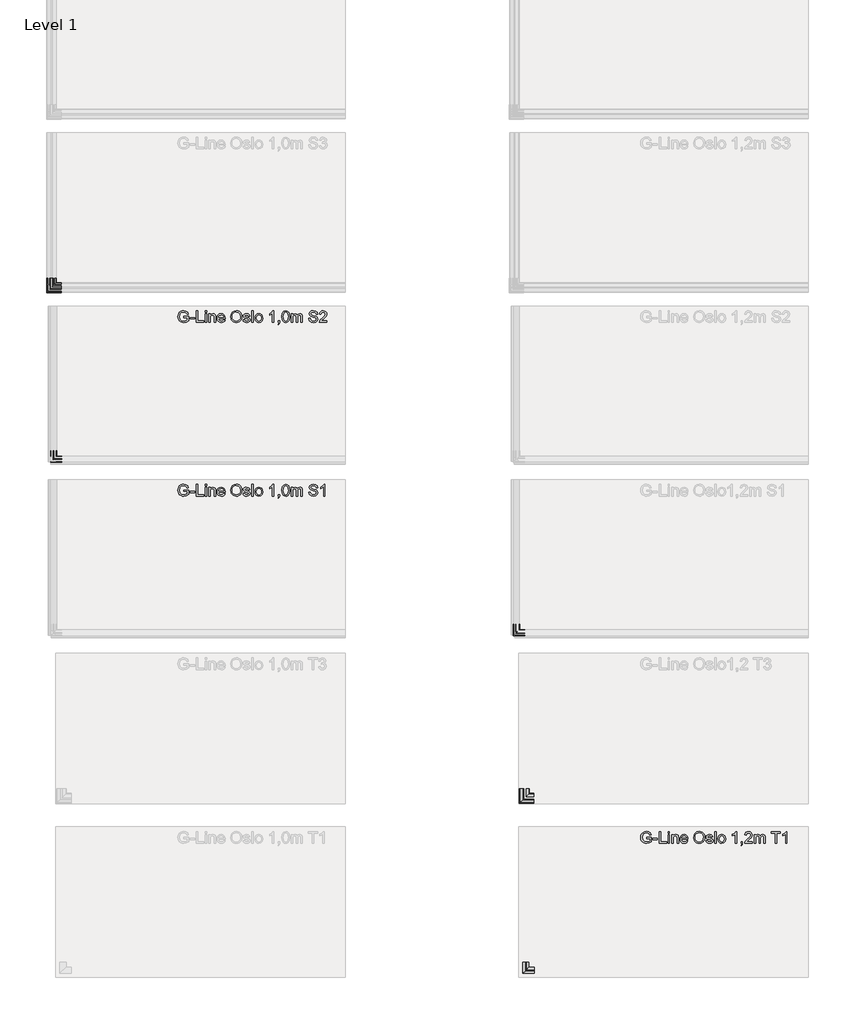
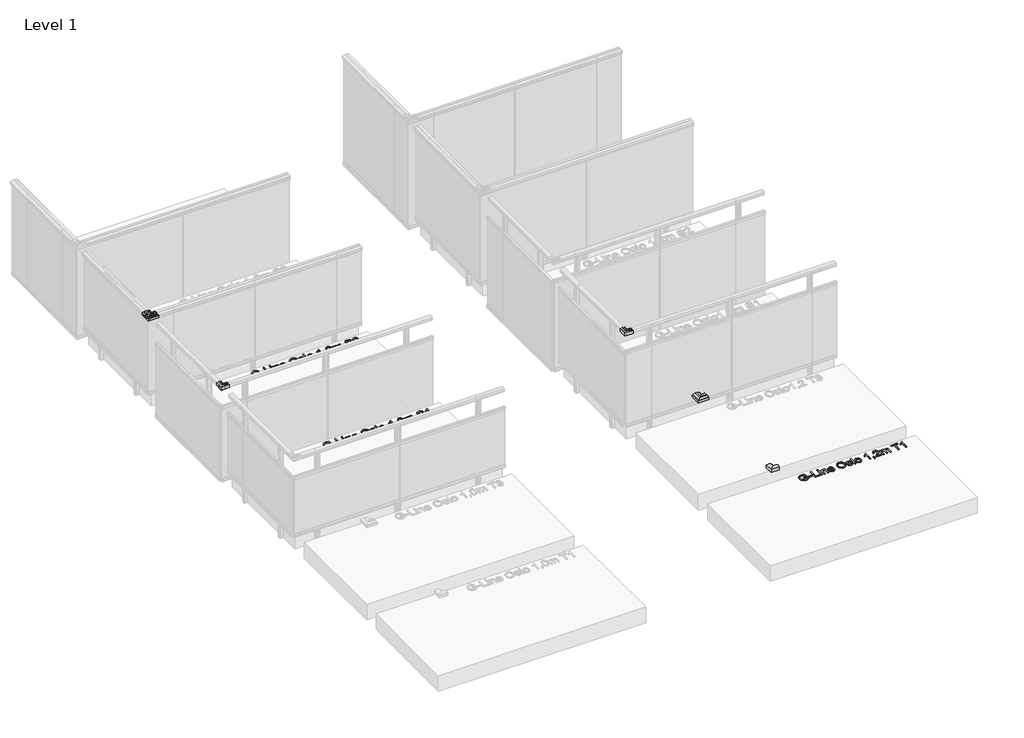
# One storey, part 61 of 66: 8 proxies.
"""IFC4 building model written with IfcOpenShell, lengths in millimetres."""

from ifc_helpers import new_model, si_unit, origin, origin_with_axes, place, context, project, spatial, polyline, outline, extrude, transform, mapped, element, save
from components import generic_models_029e0633, generic_models_224f447f

model = new_model("IFC4")

# Units and contexts
model_context = context("Model", 3, world=origin())
ifc_project = project(units=[si_unit("LENGTHUNIT", "METRE", prefix="MILLI")], contexts=[model_context])

# Site, building, storey
site = spatial("IfcSite", under=ifc_project)
building = spatial("IfcBuilding", under=site)
storey = spatial("IfcBuildingStorey", under=building, Name="Level 1", Elevation=0.0)

# Proxies
placement = place(None, origin())
generic_models_shape = generic_models_029e0633(model_context)
element("IfcBuildingElementProxy", 1, Name="Innore top rail 51x43 corner element : Innore top rail 51x43 element", ObjectType="Innore top rail 51x43 corner element : Innore top rail 51x43 element", at=placement, inside=storey, context=model_context, shape_type="MappedRepresentation", body=[
    mapped(generic_models_shape, transform((4483.61192, 14108.9644424, 1000.0), x_axis=(0.0, -1.0, 0.0), y_axis=(1.0, 0.0, 0.0), z_axis=(0.0, 0.0, 1.0))),
])
element("IfcBuildingElementProxy", 2, Name="Innore top rail 51x43 corner element : Innore top rail 51x43 element", ObjectType="Innore top rail 51x43 corner element : Innore top rail 51x43 element", at=placement, inside=storey, context=model_context, shape_type="MappedRepresentation", body=[
    mapped(generic_models_shape, transform((8564.0547322, 9691.305231, 1200.0), x_axis=(0.0, -1.0, 0.0), y_axis=(1.0, 0.0, 0.0), z_axis=(0.0, 0.0, 1.0))),
])
element("IfcBuildingElementProxy", 3, Name="Innore top rail 51x43 corner element : Innore top rail 51x43 element", ObjectType="Innore top rail 51x43 corner element : Innore top rail 51x43 element", at=placement, inside=storey, context=model_context, shape_type="MappedRepresentation", body=[
    mapped(generic_models_shape, transform((8483.61192, 12608.9644424, 1200.0), x_axis=(0.0, -1.0, 0.0), y_axis=(1.0, 0.0, 0.0), z_axis=(0.0, 0.0, 1.0))),
])
generic_models_2_shape = generic_models_224f447f(model_context)
element("IfcBuildingElementProxy", 4, Name="Innore top rail 81x35 corner element : Innore top rail 81x35 element", ObjectType="Innore top rail 81x35 corner element : Innore top rail 81x35 element", at=placement, inside=storey, context=model_context, shape_type="MappedRepresentation", body=[
    mapped(generic_models_2_shape, transform((4465.4055183, 15591.2640182, 1000.0), x_axis=(0.0, -1.0, 0.0), y_axis=(1.0, 0.0, 0.0), z_axis=(0.0, 0.0, 1.0))),
])
element("IfcBuildingElementProxy", 5, Name="Innore top rail 81x35 corner element : Innore top rail 81x35 element", ObjectType="Innore top rail 81x35 corner element : Innore top rail 81x35 element", at=placement, inside=storey, context=model_context, shape_type="MappedRepresentation", body=[
    mapped(generic_models_2_shape, transform((8551.5540282, 11177.2886441, 1200.0), x_axis=(0.0, -1.0, 0.0), y_axis=(1.0, 0.0, 0.0), z_axis=(0.0, 0.0, 1.0))),
])
element("IfcBuildingElementProxy", 6, Name="100mm Arial", ObjectType="100mm Arial", at=placement, inside=storey, context=model_context, shape_type="SweptSolid", body=[
    extrude(outline(polyline([(5608.6537991, 13829.5293902), (5608.6537991, 13842.086429), (5649.4641751, 13842.086429), (5649.4641751, 13804.53794), (5629.3165045, 13792.6921398), (5608.0161369, 13788.7190142), (5593.9293222, 13790.2978411), (5581.1975395, 13795.0343218), (5570.6209321, 13802.7629094), (5562.9996435, 13813.318057), (5558.3919215, 13825.979329), (5556.8560141, 13840.0262898), (5558.3857901, 13854.1744182), (5562.975118, 13867.3353966), (5570.4339255, 13878.3749221), (5580.5721401, 13886.158692), (5592.9207124, 13890.7756111), (5607.0105928, 13892.3145841), (5626.6554914, 13888.7461287), (5640.4265407, 13878.8133149), (5648.0171726, 13862.1973114), (5636.4411524, 13858.9354244), (5630.714456, 13870.5482327), (5620.928795, 13877.243685), (5606.8143891, 13879.7575453), (5590.7379459, 13877.0474813), (5579.7995879, 13869.935096), (5573.3371275, 13860.2597996), (5569.4130529, 13840.5413246), (5574.1342052, 13818.6523459), (5587.8684663, 13805.5557469), (5607.0105928, 13801.276053), (5624.190682, 13804.5011518), (5636.9071363, 13811.3805451), (5636.9071363, 13829.5293902), (5608.6537991, 13829.5293902)])), origin_with_axes(), (0.0, 0.0, 1.0), 10.0),
    extrude(outline(polyline([(5662.0212138, 13820.1116112), (5662.0212138, 13832.6686499), (5701.26196, 13832.6686499), (5701.26196, 13820.1116112), (5662.0212138, 13820.1116112)])), origin_with_axes(), (0.0, 0.0, 1.0), 10.0),
    extrude(outline(polyline([(5716.9582584, 13790.2886441), (5716.9582584, 13890.7449542), (5729.5152972, 13890.7449542), (5729.5152972, 13802.8456829), (5779.7434523, 13802.8456829), (5779.7434523, 13790.2886441), (5716.9582584, 13790.2886441)])), origin_with_axes(), (0.0, 0.0, 1.0), 10.0),
    extrude(outline(polyline([(5792.3004911, 13878.1879155), (5792.3004911, 13890.7449542), (5804.8575298, 13890.7449542), (5804.8575298, 13878.1879155), (5792.3004911, 13878.1879155)])), origin_with_axes(), (0.0, 0.0, 1.0), 10.0),
    extrude(outline(polyline([(5792.3004911, 13790.2886441), (5792.3004911, 13864.0612468), (5804.8575298, 13864.0612468), (5804.8575298, 13790.2886441), (5792.3004911, 13790.2886441)])), origin_with_axes(), (0.0, 0.0, 1.0), 10.0),
    extrude(outline(polyline([(5823.693088, 13790.2886441), (5823.693088, 13864.0612468), (5836.2501268, 13864.0612468), (5836.2501268, 13853.760551), (5845.8518468, 13862.6632953), (5858.9607086, 13865.6308767), (5870.8187716, 13863.2396437), (5878.9121755, 13856.9611243), (5882.6768345, 13847.7272863), (5883.3390221, 13835.5871804), (5883.3390221, 13790.2886441), (5870.7819834, 13790.2886441), (5870.7819834, 13833.8949232), (5869.3349809, 13845.0049595), (5864.2214211, 13850.8788087), (5855.6007197, 13853.0738379), (5841.9768231, 13848.1442192), (5837.6818009, 13841.0011771), (5836.2501268, 13829.4312884), (5836.2501268, 13790.2886441), (5823.693088, 13790.2886441)])), origin_with_axes(), (0.0, 0.0, 1.0), 10.0),
    extrude(outline(polyline([(5952.2555826, 13812.2634619), (5964.5673667, 13810.6938321), (5960.1313229, 13801.4170744), (5953.0526602, 13794.4824988), (5943.490794, 13790.1598854), (5931.6051399, 13788.7190142), (5916.871466, 13791.2052834), (5905.5345692, 13798.6640908), (5898.305688, 13810.6110586), (5895.8960609, 13826.5618088), (5898.3302134, 13843.0490536), (5905.632671, 13855.3792318), (5916.8162837, 13863.0679655), (5930.8939014, 13865.6308767), (5944.5331263, 13863.0740968), (5955.4316305, 13855.4037572), (5962.5777382, 13843.0981045), (5964.9597741, 13826.6353852), (5964.8861977, 13823.2508709), (5908.4530997, 13823.2508709), (5910.6266691, 13813.8514859), (5915.6758495, 13806.9414357), (5922.9629787, 13802.6923987), (5931.8503946, 13801.276053), (5944.1621787, 13803.9002779), (5952.2555826, 13812.2634619)]), holes=[polyline([(5908.4530997, 13835.8079096), (5952.4027354, 13835.8079096), (5947.3750148, 13847.187726), (5940.0541631, 13851.6023099), (5930.8448504, 13853.0738379), (5915.3815439, 13848.3772111), (5910.5163045, 13842.8865723), (5908.4530997, 13835.8079096)])]), origin_with_axes(), (0.0, 0.0, 1.0), 10.0),
    extrude(outline(polyline([(6013.6182994, 13839.192424), (6016.9660255, 13861.4063651), (6027.009204, 13878.2124409), (6042.3437518, 13888.7890483), (6061.5655861, 13892.3145841), (6074.7418929, 13890.6591151), (6086.5570363, 13885.6927082), (6096.3672228, 13877.7648512), (6103.528659, 13867.225032), (6107.9064547, 13854.5821541), (6109.36572, 13840.3451209), (6107.8298126, 13825.9180153), (6103.2220907, 13813.0973278), (6095.7970057, 13802.5391145), (6085.8090095, 13794.8994318), (6074.0950337, 13790.2641186), (6061.4920097, 13788.7190142), (6048.1133678, 13790.4265998), (6036.2307793, 13795.5493566), (6026.4451183, 13803.6243664), (6019.3572585, 13814.188711), (6013.6182994, 13839.192424)]), holes=[polyline([(6026.1753381, 13839.0697966), (6028.6861327, 13823.3551041), (6036.2185166, 13811.3805451), (6047.540085, 13803.802176), (6061.4184333, 13801.276053), (6075.4991166, 13803.8267015), (6086.8390791, 13811.478647), (6094.3162807, 13823.8210879), (6096.8086812, 13840.4432228), (6092.5412501, 13861.1672418), (6080.0700504, 13874.8892402), (6061.6391625, 13879.7575453), (6048.1317619, 13877.4122976), (6036.6477123, 13870.3765544), (6028.7934317, 13857.8593695), (6026.1753381, 13839.0697966)])]), origin_with_axes(), (0.0, 0.0, 1.0), 10.0),
    extrude(outline(polyline([(6120.3531289, 13812.2634619), (6132.9101677, 13813.8330918), (6138.7227032, 13804.5134146), (6152.0400314, 13801.276053), (6164.8423248, 13804.2436344), (6169.0116541, 13811.2088669), (6164.8177994, 13816.8497241), (6151.8928786, 13820.4304422), (6132.9837441, 13826.5740715), (6124.7309246, 13833.7477704), (6121.9227587, 13843.876788), (6124.1791016, 13853.2332535), (6130.3349937, 13860.3824269), (6138.318033, 13864.098035), (6149.1215009, 13865.6308767), (6164.4008665, 13863.1660673), (6174.1129511, 13856.4951405), (6178.4294332, 13845.2256887), (6165.8723944, 13843.6560589), (6161.1512422, 13850.5845031), (6150.1025196, 13853.0738379), (6138.0850411, 13850.6948677), (6134.4797975, 13845.1521123), (6135.975851, 13841.4978178), (6140.660215, 13838.7264401), (6151.4759457, 13836.0531643), (6169.9068336, 13830.1425269), (6178.4662214, 13823.4470746), (6181.5686929, 13812.5332421), (6177.9266611, 13800.5157635), (6167.4174988, 13791.7969603), (6151.8683531, 13788.7190142), (6139.2070811, 13790.202805), (6129.9671117, 13794.6541771), (6123.7989569, 13802.0240797), (6120.3531289, 13812.2634619)])), origin_with_axes(), (0.0, 0.0, 1.0), 10.0),
    extrude(outline(polyline([(6195.6953615, 13790.2886441), (6195.6953615, 13890.7449542), (6208.2524003, 13890.7449542), (6208.2524003, 13790.2886441), (6195.6953615, 13790.2886441)])), origin_with_axes(), (0.0, 0.0, 1.0), 10.0),
    extrude(outline(polyline([(6223.9486987, 13827.1749455), (6226.6648941, 13844.9620399), (6234.8134803, 13857.4638964), (6244.8811843, 13863.5891316), (6256.935451, 13865.6308767), (6270.1270862, 13863.1446075), (6280.6638397, 13855.6858001), (6287.5708241, 13843.8430655), (6289.8731523, 13828.2050151), (6285.8019249, 13805.8623152), (6273.9438619, 13793.2194373), (6256.935451, 13788.7190142), (6243.5844002, 13791.1960863), (6233.0599095, 13798.6273026), (6226.2265014, 13810.7183575), (6223.9486987, 13827.1749455)]), holes=[polyline([(6236.5057375, 13827.1994709), (6237.9588714, 13815.834983), (6242.318273, 13807.7385134), (6248.8788353, 13802.8916681), (6256.935451, 13801.276053), (6264.9552785, 13802.9008652), (6271.503578, 13807.7753016), (6275.8629796, 13815.9790701), (6277.3161135, 13827.5918784), (6275.8537826, 13838.6252726), (6271.4667898, 13846.6113775), (6264.9092932, 13851.4582228), (6256.935451, 13853.0738379), (6248.8788353, 13851.4643542), (6242.318273, 13846.635903), (6237.9588714, 13838.5578275), (6236.5057375, 13827.1994709)])]), origin_with_axes(), (0.0, 0.0, 1.0), 10.0),
    extrude(outline(polyline([(6387.1902027, 13790.2886441), (6374.633164, 13790.2886441), (6374.633164, 13868.5739327), (6362.7383128, 13860.100384), (6349.5190864, 13853.760551), (6349.5190864, 13865.6308767), (6367.9254489, 13877.3785751), (6379.0967988, 13890.7449542), (6387.1902027, 13890.7449542), (6387.1902027, 13790.2886441)])), origin_with_axes(), (0.0, 0.0, 1.0), 10.0),
    extrude(outline(polyline([(6423.2916892, 13790.2886441), (6423.2916892, 13802.8456829), (6435.848728, 13802.8456829), (6435.848728, 13790.2886441), (6433.5923851, 13777.4495625), (6426.4309489, 13769.8834561), (6423.2916892, 13774.5923456), (6427.9024769, 13780.0124737), (6429.5456831, 13790.2886441), (6423.2916892, 13790.2886441)])), origin_with_axes(), (0.0, 0.0, 1.0), 10.0),
    extrude(outline(polyline([(6456.253916, 13839.7074588), (6459.9449986, 13868.6107209), (6470.9078821, 13885.2757752), (6489.2161427, 13890.7449542), (6503.8823716, 13887.5075927), (6514.0113892, 13878.1756527), (6519.8975011, 13863.3132201), (6522.1783695, 13839.7074588), (6518.524075, 13810.926824), (6507.5979798, 13794.2249814), (6499.3666201, 13790.095506), (6489.2161427, 13788.7190142), (6476.1685946, 13791.1102472), (6466.2603062, 13798.2839461), (6458.7555135, 13815.2739629), (6456.253916, 13839.7074588)]), holes=[polyline([(6468.8109547, 13839.7319842), (6470.2824827, 13819.9797868), (6474.6970666, 13808.5478538), (6481.2698916, 13803.0940032), (6489.2161427, 13801.276053), (6497.1623938, 13803.1001346), (6503.7352188, 13808.5723792), (6508.1498027, 13820.0104436), (6509.6213307, 13839.7319842), (6508.1988537, 13859.0396576), (6503.9314225, 13870.5604954), (6497.3708603, 13876.2810605), (6489.0689899, 13878.1879155), (6481.208578, 13876.507921), (6474.8932704, 13871.4679377), (6470.3315336, 13859.22973), (6468.8109547, 13839.7319842)])]), origin_with_axes(), (0.0, 0.0, 1.0), 10.0),
    extrude(outline(polyline([(6536.3050381, 13790.2886441), (6536.3050381, 13864.0612468), (6548.8620769, 13864.0612468), (6548.8620769, 13851.921141), (6557.495041, 13861.8662176), (6569.7822997, 13865.6308767), (6582.3638639, 13861.7926412), (6589.2800454, 13851.0382242), (6599.0779692, 13861.9827136), (6611.451067, 13865.6308767), (6620.8903058, 13864.1133635), (6627.8708667, 13859.5608238), (6632.1842831, 13851.8506303), (6633.6220886, 13840.8601557), (6633.6220886, 13790.2886441), (6621.0650498, 13790.2886441), (6621.0650498, 13835.4645531), (6619.9000901, 13845.94919), (6615.6817099, 13851.1118006), (6608.508011, 13853.0738379), (6596.1594387, 13848.0461173), (6592.4714217, 13841.5039492), (6591.2420827, 13831.9328859), (6591.2420827, 13790.2886441), (6578.685044, 13790.2886441), (6578.685044, 13836.8625047), (6575.7787762, 13849.027136), (6566.2506325, 13853.0738379), (6556.9554808, 13850.3760366), (6550.7750633, 13842.4788365), (6548.8620769, 13827.4937765), (6548.8620769, 13790.2886441), (6536.3050381, 13790.2886441)])), origin_with_axes(), (0.0, 0.0, 1.0), 10.0),
    extrude(outline(polyline([(6688.5591332, 13824.8205007), (6701.1161719, 13824.8205007), (6705.1628739, 13812.2511992), (6715.0466368, 13804.3049481), (6730.1052732, 13801.276053), (6743.2263977, 13803.5691841), (6751.6999463, 13809.872229), (6754.4835867, 13818.2967266), (6752.3989221, 13826.1326131), (6743.8640598, 13831.8347841), (6725.5803246, 13836.6295127), (6705.8986379, 13842.822193), (6695.2177973, 13852.1663957), (6691.6983929, 13864.649858), (6696.0516631, 13878.8623658), (6708.7681174, 13888.8932815), (6727.3829464, 13892.3145841), (6747.2485741, 13888.733866), (6760.492326, 13878.2124409), (6765.4709956, 13862.491617), (6752.9139569, 13862.491617), (6750.608563, 13869.984147), (6745.8015716, 13875.3920123), (6727.8734557, 13879.7575453), (6709.8962889, 13875.4410632), (6704.2554316, 13865.01774), (6708.2530827, 13856.3111995), (6728.7563725, 13849.2969161), (6750.976445, 13842.9938713), (6763.1288136, 13832.8158027), (6767.0406255, 13818.6155577), (6762.5402024, 13803.5937096), (6749.5907562, 13792.6308261), (6730.5957825, 13788.7190142), (6708.1672435, 13792.9373944), (6693.9792612, 13805.641586), (6688.5591332, 13824.8205007)])), origin_with_axes(), (0.0, 0.0, 1.0), 10.0),
    extrude(outline(polyline([(6828.2561895, 13790.2886441), (6815.6991507, 13790.2886441), (6815.6991507, 13868.5739327), (6803.8042995, 13860.100384), (6790.5850732, 13853.760551), (6790.5850732, 13865.6308767), (6808.9914357, 13877.3785751), (6820.1627856, 13890.7449542), (6828.2561895, 13890.7449542), (6828.2561895, 13790.2886441)])), origin_with_axes(), (0.0, 0.0, 1.0), 10.0),
])
element("IfcBuildingElementProxy", 7, Name="100mm Arial", ObjectType="100mm Arial", at=placement, inside=storey, context=model_context, shape_type="SweptSolid", body=[
    extrude(outline(polyline([(5608.6537991, 15329.5293902), (5608.6537991, 15342.086429), (5649.4641751, 15342.086429), (5649.4641751, 15304.53794), (5629.3165045, 15292.6921398), (5608.0161369, 15288.7190142), (5593.9293222, 15290.2978411), (5581.1975395, 15295.0343218), (5570.6209321, 15302.7629094), (5562.9996435, 15313.318057), (5558.3919215, 15325.979329), (5556.8560141, 15340.0262898), (5558.3857901, 15354.1744182), (5562.975118, 15367.3353966), (5570.4339255, 15378.3749221), (5580.5721401, 15386.158692), (5592.9207124, 15390.7756111), (5607.0105928, 15392.3145841), (5626.6554914, 15388.7461287), (5640.4265407, 15378.8133149), (5648.0171726, 15362.1973114), (5636.4411524, 15358.9354244), (5630.714456, 15370.5482327), (5620.928795, 15377.243685), (5606.8143891, 15379.7575453), (5590.7379459, 15377.0474813), (5579.7995879, 15369.935096), (5573.3371275, 15360.2597996), (5569.4130529, 15340.5413246), (5574.1342052, 15318.6523459), (5587.8684663, 15305.5557469), (5607.0105928, 15301.276053), (5624.190682, 15304.5011518), (5636.9071363, 15311.3805451), (5636.9071363, 15329.5293902), (5608.6537991, 15329.5293902)])), origin_with_axes(), (0.0, 0.0, 1.0), 10.0),
    extrude(outline(polyline([(5662.0212138, 15320.1116112), (5662.0212138, 15332.6686499), (5701.26196, 15332.6686499), (5701.26196, 15320.1116112), (5662.0212138, 15320.1116112)])), origin_with_axes(), (0.0, 0.0, 1.0), 10.0),
    extrude(outline(polyline([(5716.9582584, 15290.2886441), (5716.9582584, 15390.7449542), (5729.5152972, 15390.7449542), (5729.5152972, 15302.8456829), (5779.7434523, 15302.8456829), (5779.7434523, 15290.2886441), (5716.9582584, 15290.2886441)])), origin_with_axes(), (0.0, 0.0, 1.0), 10.0),
    extrude(outline(polyline([(5792.3004911, 15378.1879155), (5792.3004911, 15390.7449542), (5804.8575298, 15390.7449542), (5804.8575298, 15378.1879155), (5792.3004911, 15378.1879155)])), origin_with_axes(), (0.0, 0.0, 1.0), 10.0),
    extrude(outline(polyline([(5792.3004911, 15290.2886441), (5792.3004911, 15364.0612468), (5804.8575298, 15364.0612468), (5804.8575298, 15290.2886441), (5792.3004911, 15290.2886441)])), origin_with_axes(), (0.0, 0.0, 1.0), 10.0),
    extrude(outline(polyline([(5823.693088, 15290.2886441), (5823.693088, 15364.0612468), (5836.2501268, 15364.0612468), (5836.2501268, 15353.760551), (5845.8518468, 15362.6632953), (5858.9607086, 15365.6308767), (5870.8187716, 15363.2396437), (5878.9121755, 15356.9611243), (5882.6768345, 15347.7272863), (5883.3390221, 15335.5871804), (5883.3390221, 15290.2886441), (5870.7819834, 15290.2886441), (5870.7819834, 15333.8949232), (5869.3349809, 15345.0049595), (5864.2214211, 15350.8788087), (5855.6007197, 15353.0738379), (5841.9768231, 15348.1442192), (5837.6818009, 15341.0011771), (5836.2501268, 15329.4312884), (5836.2501268, 15290.2886441), (5823.693088, 15290.2886441)])), origin_with_axes(), (0.0, 0.0, 1.0), 10.0),
    extrude(outline(polyline([(5952.2555826, 15312.2634619), (5964.5673667, 15310.6938321), (5960.1313229, 15301.4170744), (5953.0526602, 15294.4824988), (5943.490794, 15290.1598854), (5931.6051399, 15288.7190142), (5916.871466, 15291.2052834), (5905.5345692, 15298.6640908), (5898.305688, 15310.6110586), (5895.8960609, 15326.5618088), (5898.3302134, 15343.0490536), (5905.632671, 15355.3792318), (5916.8162837, 15363.0679655), (5930.8939014, 15365.6308767), (5944.5331263, 15363.0740968), (5955.4316305, 15355.4037572), (5962.5777382, 15343.0981045), (5964.9597741, 15326.6353852), (5964.8861977, 15323.2508709), (5908.4530997, 15323.2508709), (5910.6266691, 15313.8514859), (5915.6758495, 15306.9414357), (5922.9629787, 15302.6923987), (5931.8503946, 15301.276053), (5944.1621787, 15303.9002779), (5952.2555826, 15312.2634619)]), holes=[polyline([(5908.4530997, 15335.8079096), (5952.4027354, 15335.8079096), (5947.3750148, 15347.187726), (5940.0541631, 15351.6023099), (5930.8448504, 15353.0738379), (5915.3815439, 15348.3772111), (5910.5163045, 15342.8865723), (5908.4530997, 15335.8079096)])]), origin_with_axes(), (0.0, 0.0, 1.0), 10.0),
    extrude(outline(polyline([(6013.6182994, 15339.192424), (6016.9660255, 15361.4063651), (6027.009204, 15378.2124409), (6042.3437518, 15388.7890483), (6061.5655861, 15392.3145841), (6074.7418929, 15390.6591151), (6086.5570363, 15385.6927082), (6096.3672228, 15377.7648512), (6103.528659, 15367.225032), (6107.9064547, 15354.5821541), (6109.36572, 15340.3451209), (6107.8298126, 15325.9180153), (6103.2220907, 15313.0973278), (6095.7970057, 15302.5391145), (6085.8090095, 15294.8994318), (6074.0950337, 15290.2641186), (6061.4920097, 15288.7190142), (6048.1133678, 15290.4265998), (6036.2307793, 15295.5493566), (6026.4451183, 15303.6243664), (6019.3572585, 15314.188711), (6013.6182994, 15339.192424)]), holes=[polyline([(6026.1753381, 15339.0697966), (6028.6861327, 15323.3551041), (6036.2185166, 15311.3805451), (6047.540085, 15303.802176), (6061.4184333, 15301.276053), (6075.4991166, 15303.8267015), (6086.8390791, 15311.478647), (6094.3162807, 15323.8210879), (6096.8086812, 15340.4432228), (6092.5412501, 15361.1672418), (6080.0700504, 15374.8892402), (6061.6391625, 15379.7575453), (6048.1317619, 15377.4122976), (6036.6477123, 15370.3765544), (6028.7934317, 15357.8593695), (6026.1753381, 15339.0697966)])]), origin_with_axes(), (0.0, 0.0, 1.0), 10.0),
    extrude(outline(polyline([(6120.3531289, 15312.2634619), (6132.9101677, 15313.8330918), (6138.7227032, 15304.5134146), (6152.0400314, 15301.276053), (6164.8423248, 15304.2436344), (6169.0116541, 15311.2088669), (6164.8177994, 15316.8497241), (6151.8928786, 15320.4304422), (6132.9837441, 15326.5740715), (6124.7309246, 15333.7477704), (6121.9227587, 15343.876788), (6124.1791016, 15353.2332535), (6130.3349937, 15360.3824269), (6138.318033, 15364.098035), (6149.1215009, 15365.6308767), (6164.4008665, 15363.1660673), (6174.1129511, 15356.4951405), (6178.4294332, 15345.2256887), (6165.8723944, 15343.6560589), (6161.1512422, 15350.5845031), (6150.1025196, 15353.0738379), (6138.0850411, 15350.6948677), (6134.4797975, 15345.1521123), (6135.975851, 15341.4978178), (6140.660215, 15338.7264401), (6151.4759457, 15336.0531643), (6169.9068336, 15330.1425269), (6178.4662214, 15323.4470746), (6181.5686929, 15312.5332421), (6177.9266611, 15300.5157635), (6167.4174988, 15291.7969603), (6151.8683531, 15288.7190142), (6139.2070811, 15290.202805), (6129.9671117, 15294.6541771), (6123.7989569, 15302.0240797), (6120.3531289, 15312.2634619)])), origin_with_axes(), (0.0, 0.0, 1.0), 10.0),
    extrude(outline(polyline([(6195.6953615, 15290.2886441), (6195.6953615, 15390.7449542), (6208.2524003, 15390.7449542), (6208.2524003, 15290.2886441), (6195.6953615, 15290.2886441)])), origin_with_axes(), (0.0, 0.0, 1.0), 10.0),
    extrude(outline(polyline([(6223.9486987, 15327.1749455), (6226.6648941, 15344.9620399), (6234.8134803, 15357.4638964), (6244.8811843, 15363.5891316), (6256.935451, 15365.6308767), (6270.1270862, 15363.1446075), (6280.6638397, 15355.6858001), (6287.5708241, 15343.8430655), (6289.8731523, 15328.2050151), (6285.8019249, 15305.8623152), (6273.9438619, 15293.2194373), (6256.935451, 15288.7190142), (6243.5844002, 15291.1960863), (6233.0599095, 15298.6273026), (6226.2265014, 15310.7183575), (6223.9486987, 15327.1749455)]), holes=[polyline([(6236.5057375, 15327.1994709), (6237.9588714, 15315.834983), (6242.318273, 15307.7385134), (6248.8788353, 15302.8916681), (6256.935451, 15301.276053), (6264.9552785, 15302.9008652), (6271.503578, 15307.7753016), (6275.8629796, 15315.9790701), (6277.3161135, 15327.5918784), (6275.8537826, 15338.6252726), (6271.4667898, 15346.6113775), (6264.9092932, 15351.4582228), (6256.935451, 15353.0738379), (6248.8788353, 15351.4643542), (6242.318273, 15346.635903), (6237.9588714, 15338.5578275), (6236.5057375, 15327.1994709)])]), origin_with_axes(), (0.0, 0.0, 1.0), 10.0),
    extrude(outline(polyline([(6387.1902027, 15290.2886441), (6374.633164, 15290.2886441), (6374.633164, 15368.5739327), (6362.7383128, 15360.100384), (6349.5190864, 15353.760551), (6349.5190864, 15365.6308767), (6367.9254489, 15377.3785751), (6379.0967988, 15390.7449542), (6387.1902027, 15390.7449542), (6387.1902027, 15290.2886441)])), origin_with_axes(), (0.0, 0.0, 1.0), 10.0),
    extrude(outline(polyline([(6423.2916892, 15290.2886441), (6423.2916892, 15302.8456829), (6435.848728, 15302.8456829), (6435.848728, 15290.2886441), (6433.5923851, 15277.4495625), (6426.4309489, 15269.8834561), (6423.2916892, 15274.5923456), (6427.9024769, 15280.0124737), (6429.5456831, 15290.2886441), (6423.2916892, 15290.2886441)])), origin_with_axes(), (0.0, 0.0, 1.0), 10.0),
    extrude(outline(polyline([(6456.253916, 15339.7074588), (6459.9449986, 15368.6107209), (6470.9078821, 15385.2757752), (6489.2161427, 15390.7449542), (6503.8823716, 15387.5075927), (6514.0113892, 15378.1756527), (6519.8975011, 15363.3132201), (6522.1783695, 15339.7074588), (6518.524075, 15310.926824), (6507.5979798, 15294.2249814), (6499.3666201, 15290.095506), (6489.2161427, 15288.7190142), (6476.1685946, 15291.1102472), (6466.2603062, 15298.2839461), (6458.7555135, 15315.2739629), (6456.253916, 15339.7074588)]), holes=[polyline([(6468.8109547, 15339.7319842), (6470.2824827, 15319.9797868), (6474.6970666, 15308.5478538), (6481.2698916, 15303.0940032), (6489.2161427, 15301.276053), (6497.1623938, 15303.1001346), (6503.7352188, 15308.5723792), (6508.1498027, 15320.0104436), (6509.6213307, 15339.7319842), (6508.1988537, 15359.0396576), (6503.9314225, 15370.5604954), (6497.3708603, 15376.2810605), (6489.0689899, 15378.1879155), (6481.208578, 15376.507921), (6474.8932704, 15371.4679377), (6470.3315336, 15359.22973), (6468.8109547, 15339.7319842)])]), origin_with_axes(), (0.0, 0.0, 1.0), 10.0),
    extrude(outline(polyline([(6536.3050381, 15290.2886441), (6536.3050381, 15364.0612468), (6548.8620769, 15364.0612468), (6548.8620769, 15351.921141), (6557.495041, 15361.8662176), (6569.7822997, 15365.6308767), (6582.3638639, 15361.7926412), (6589.2800454, 15351.0382242), (6599.0779692, 15361.9827136), (6611.451067, 15365.6308767), (6620.8903058, 15364.1133635), (6627.8708667, 15359.5608238), (6632.1842831, 15351.8506303), (6633.6220886, 15340.8601557), (6633.6220886, 15290.2886441), (6621.0650498, 15290.2886441), (6621.0650498, 15335.4645531), (6619.9000901, 15345.94919), (6615.6817099, 15351.1118006), (6608.508011, 15353.0738379), (6596.1594387, 15348.0461173), (6592.4714217, 15341.5039492), (6591.2420827, 15331.9328859), (6591.2420827, 15290.2886441), (6578.685044, 15290.2886441), (6578.685044, 15336.8625047), (6575.7787762, 15349.027136), (6566.2506325, 15353.0738379), (6556.9554808, 15350.3760366), (6550.7750633, 15342.4788365), (6548.8620769, 15327.4937765), (6548.8620769, 15290.2886441), (6536.3050381, 15290.2886441)])), origin_with_axes(), (0.0, 0.0, 1.0), 10.0),
    extrude(outline(polyline([(6688.5591332, 15324.8205007), (6701.1161719, 15324.8205007), (6705.1628739, 15312.2511992), (6715.0466368, 15304.3049481), (6730.1052732, 15301.276053), (6743.2263977, 15303.5691841), (6751.6999463, 15309.872229), (6754.4835867, 15318.2967266), (6752.3989221, 15326.1326131), (6743.8640598, 15331.8347841), (6725.5803246, 15336.6295127), (6705.8986379, 15342.822193), (6695.2177973, 15352.1663957), (6691.6983929, 15364.649858), (6696.0516631, 15378.8623658), (6708.7681174, 15388.8932815), (6727.3829464, 15392.3145841), (6747.2485741, 15388.733866), (6760.492326, 15378.2124409), (6765.4709956, 15362.491617), (6752.9139569, 15362.491617), (6750.608563, 15369.984147), (6745.8015716, 15375.3920123), (6727.8734557, 15379.7575453), (6709.8962889, 15375.4410632), (6704.2554316, 15365.01774), (6708.2530827, 15356.3111995), (6728.7563725, 15349.2969161), (6750.976445, 15342.9938713), (6763.1288136, 15332.8158027), (6767.0406255, 15318.6155577), (6762.5402024, 15303.5937096), (6749.5907562, 15292.6308261), (6730.5957825, 15288.7190142), (6708.1672435, 15292.9373944), (6693.9792612, 15305.641586), (6688.5591332, 15324.8205007)])), origin_with_axes(), (0.0, 0.0, 1.0), 10.0),
    extrude(outline(polyline([(6845.5221178, 15302.8456829), (6845.5221178, 15290.2886441), (6779.5976643, 15290.2886441), (6780.9465649, 15298.9461337), (6788.5739849, 15312.2757247), (6804.2948089, 15326.8315889), (6825.9753211, 15347.7518117), (6831.3954492, 15361.9765822), (6826.2818894, 15373.4912887), (6812.927773, 15378.1879155), (6799.0095709, 15373.6016533), (6793.7243329, 15360.9219872), (6781.1672941, 15362.491617), (6784.2115176, 15374.6378542), (6790.7935396, 15383.5099417), (6800.5700037, 15388.9362011), (6813.1975531, 15390.7449542), (6825.9170731, 15388.733866), (6835.675143, 15382.7006013), (6841.8831517, 15373.6874924), (6843.9524879, 15362.7368717), (6841.7206705, 15350.8297578), (6834.3017169, 15338.5179737), (6816.3122874, 15321.313359), (6801.8667877, 15309.2345668), (6796.201405, 15302.8456829), (6845.5221178, 15302.8456829)])), origin_with_axes(), (0.0, 0.0, 1.0), 10.0),
])
element("IfcBuildingElementProxy", 8, Name="100mm Arial", ObjectType="100mm Arial", at=placement, inside=storey, context=model_context, shape_type="SweptSolid", body=[
    extrude(outline(polyline([(9608.6537991, 10829.5293902), (9608.6537991, 10842.086429), (9649.4641751, 10842.086429), (9649.4641751, 10804.53794), (9629.3165045, 10792.6921398), (9608.0161369, 10788.7190142), (9593.9293222, 10790.2978411), (9581.1975395, 10795.0343218), (9570.6209321, 10802.7629094), (9562.9996435, 10813.318057), (9558.3919215, 10825.979329), (9556.8560141, 10840.0262898), (9558.3857901, 10854.1744182), (9562.975118, 10867.3353966), (9570.4339255, 10878.3749221), (9580.5721401, 10886.158692), (9592.9207124, 10890.7756111), (9607.0105928, 10892.3145841), (9626.6554914, 10888.7461287), (9640.4265407, 10878.8133149), (9648.0171726, 10862.1973114), (9636.4411524, 10858.9354244), (9630.714456, 10870.5482327), (9620.928795, 10877.243685), (9606.8143891, 10879.7575453), (9590.7379459, 10877.0474813), (9579.7995879, 10869.935096), (9573.3371275, 10860.2597996), (9569.4130529, 10840.5413246), (9574.1342052, 10818.6523459), (9587.8684663, 10805.5557469), (9607.0105928, 10801.276053), (9624.190682, 10804.5011518), (9636.9071363, 10811.3805451), (9636.9071363, 10829.5293902), (9608.6537991, 10829.5293902)])), origin_with_axes(), (0.0, 0.0, 1.0), 10.0),
    extrude(outline(polyline([(9662.0212138, 10820.1116112), (9662.0212138, 10832.6686499), (9701.26196, 10832.6686499), (9701.26196, 10820.1116112), (9662.0212138, 10820.1116112)])), origin_with_axes(), (0.0, 0.0, 1.0), 10.0),
    extrude(outline(polyline([(9716.9582584, 10790.2886441), (9716.9582584, 10890.7449542), (9729.5152972, 10890.7449542), (9729.5152972, 10802.8456829), (9779.7434523, 10802.8456829), (9779.7434523, 10790.2886441), (9716.9582584, 10790.2886441)])), origin_with_axes(), (0.0, 0.0, 1.0), 10.0),
    extrude(outline(polyline([(9792.3004911, 10878.1879155), (9792.3004911, 10890.7449542), (9804.8575298, 10890.7449542), (9804.8575298, 10878.1879155), (9792.3004911, 10878.1879155)])), origin_with_axes(), (0.0, 0.0, 1.0), 10.0),
    extrude(outline(polyline([(9792.3004911, 10790.2886441), (9792.3004911, 10864.0612468), (9804.8575298, 10864.0612468), (9804.8575298, 10790.2886441), (9792.3004911, 10790.2886441)])), origin_with_axes(), (0.0, 0.0, 1.0), 10.0),
    extrude(outline(polyline([(9823.693088, 10790.2886441), (9823.693088, 10864.0612468), (9836.2501268, 10864.0612468), (9836.2501268, 10853.760551), (9845.8518468, 10862.6632953), (9858.9607086, 10865.6308767), (9870.8187716, 10863.2396437), (9878.9121755, 10856.9611243), (9882.6768345, 10847.7272863), (9883.3390221, 10835.5871804), (9883.3390221, 10790.2886441), (9870.7819834, 10790.2886441), (9870.7819834, 10833.8949232), (9869.3349809, 10845.0049595), (9864.2214211, 10850.8788087), (9855.6007197, 10853.0738379), (9841.9768231, 10848.1442192), (9837.6818009, 10841.0011771), (9836.2501268, 10829.4312884), (9836.2501268, 10790.2886441), (9823.693088, 10790.2886441)])), origin_with_axes(), (0.0, 0.0, 1.0), 10.0),
    extrude(outline(polyline([(9952.2555826, 10812.2634619), (9964.5673667, 10810.6938321), (9960.1313229, 10801.4170744), (9953.0526602, 10794.4824988), (9943.490794, 10790.1598854), (9931.6051399, 10788.7190142), (9916.871466, 10791.2052834), (9905.5345692, 10798.6640908), (9898.305688, 10810.6110586), (9895.8960609, 10826.5618088), (9898.3302134, 10843.0490536), (9905.632671, 10855.3792318), (9916.8162837, 10863.0679655), (9930.8939014, 10865.6308767), (9944.5331263, 10863.0740968), (9955.4316305, 10855.4037572), (9962.5777382, 10843.0981045), (9964.9597741, 10826.6353852), (9964.8861977, 10823.2508709), (9908.4530997, 10823.2508709), (9910.6266691, 10813.8514859), (9915.6758495, 10806.9414357), (9922.9629787, 10802.6923987), (9931.8503946, 10801.276053), (9944.1621787, 10803.9002779), (9952.2555826, 10812.2634619)]), holes=[polyline([(9908.4530997, 10835.8079096), (9952.4027354, 10835.8079096), (9947.3750148, 10847.187726), (9940.0541631, 10851.6023099), (9930.8448504, 10853.0738379), (9915.3815439, 10848.3772111), (9910.5163045, 10842.8865723), (9908.4530997, 10835.8079096)])]), origin_with_axes(), (0.0, 0.0, 1.0), 10.0),
    extrude(outline(polyline([(10013.6182994, 10839.192424), (10016.9660255, 10861.4063651), (10027.009204, 10878.2124409), (10042.3437518, 10888.7890483), (10061.5655861, 10892.3145841), (10074.7418929, 10890.6591151), (10086.5570363, 10885.6927082), (10096.3672228, 10877.7648512), (10103.528659, 10867.225032), (10107.9064547, 10854.5821541), (10109.36572, 10840.3451209), (10107.8298126, 10825.9180153), (10103.2220907, 10813.0973278), (10095.7970057, 10802.5391145), (10085.8090095, 10794.8994318), (10074.0950337, 10790.2641186), (10061.4920097, 10788.7190142), (10048.1133678, 10790.4265998), (10036.2307793, 10795.5493566), (10026.4451183, 10803.6243664), (10019.3572585, 10814.188711), (10013.6182994, 10839.192424)]), holes=[polyline([(10026.1753381, 10839.0697966), (10028.6861327, 10823.3551041), (10036.2185166, 10811.3805451), (10047.540085, 10803.802176), (10061.4184333, 10801.276053), (10075.4991166, 10803.8267015), (10086.8390791, 10811.478647), (10094.3162807, 10823.8210879), (10096.8086812, 10840.4432228), (10092.5412501, 10861.1672418), (10080.0700504, 10874.8892402), (10061.6391625, 10879.7575453), (10048.1317619, 10877.4122976), (10036.6477123, 10870.3765544), (10028.7934317, 10857.8593695), (10026.1753381, 10839.0697966)])]), origin_with_axes(), (0.0, 0.0, 1.0), 10.0),
    extrude(outline(polyline([(10120.3531289, 10812.2634619), (10132.9101677, 10813.8330918), (10138.7227032, 10804.5134146), (10152.0400314, 10801.276053), (10164.8423248, 10804.2436344), (10169.0116541, 10811.2088669), (10164.8177994, 10816.8497241), (10151.8928786, 10820.4304422), (10132.9837441, 10826.5740715), (10124.7309246, 10833.7477704), (10121.9227587, 10843.876788), (10124.1791016, 10853.2332535), (10130.3349937, 10860.3824269), (10138.318033, 10864.098035), (10149.1215009, 10865.6308767), (10164.4008665, 10863.1660673), (10174.1129511, 10856.4951405), (10178.4294332, 10845.2256887), (10165.8723944, 10843.6560589), (10161.1512422, 10850.5845031), (10150.1025196, 10853.0738379), (10138.0850411, 10850.6948677), (10134.4797975, 10845.1521123), (10135.975851, 10841.4978178), (10140.660215, 10838.7264401), (10151.4759457, 10836.0531643), (10169.9068336, 10830.1425269), (10178.4662214, 10823.4470746), (10181.5686929, 10812.5332421), (10177.9266611, 10800.5157635), (10167.4174988, 10791.7969603), (10151.8683531, 10788.7190142), (10139.2070811, 10790.202805), (10129.9671117, 10794.6541771), (10123.7989569, 10802.0240797), (10120.3531289, 10812.2634619)])), origin_with_axes(), (0.0, 0.0, 1.0), 10.0),
    extrude(outline(polyline([(10195.6953615, 10790.2886441), (10195.6953615, 10890.7449542), (10208.2524003, 10890.7449542), (10208.2524003, 10790.2886441), (10195.6953615, 10790.2886441)])), origin_with_axes(), (0.0, 0.0, 1.0), 10.0),
    extrude(outline(polyline([(10223.9486987, 10827.1749455), (10226.6648941, 10844.9620399), (10234.8134803, 10857.4638964), (10244.8811843, 10863.5891316), (10256.935451, 10865.6308767), (10270.1270862, 10863.1446075), (10280.6638397, 10855.6858001), (10287.5708241, 10843.8430655), (10289.8731523, 10828.2050151), (10285.8019249, 10805.8623152), (10273.9438619, 10793.2194373), (10256.935451, 10788.7190142), (10243.5844002, 10791.1960863), (10233.0599095, 10798.6273026), (10226.2265014, 10810.7183575), (10223.9486987, 10827.1749455)]), holes=[polyline([(10236.5057375, 10827.1994709), (10237.9588714, 10815.834983), (10242.318273, 10807.7385134), (10248.8788353, 10802.8916681), (10256.935451, 10801.276053), (10264.9552785, 10802.9008652), (10271.503578, 10807.7753016), (10275.8629796, 10815.9790701), (10277.3161135, 10827.5918784), (10275.8537826, 10838.6252726), (10271.4667898, 10846.6113775), (10264.9092932, 10851.4582228), (10256.935451, 10853.0738379), (10248.8788353, 10851.4643542), (10242.318273, 10846.635903), (10237.9588714, 10838.5578275), (10236.5057375, 10827.1994709)])]), origin_with_axes(), (0.0, 0.0, 1.0), 10.0),
    extrude(outline(polyline([(10387.1902027, 10790.2886441), (10374.633164, 10790.2886441), (10374.633164, 10868.5739327), (10362.7383128, 10860.100384), (10349.5190864, 10853.760551), (10349.5190864, 10865.6308767), (10367.9254489, 10877.3785751), (10379.0967988, 10890.7449542), (10387.1902027, 10890.7449542), (10387.1902027, 10790.2886441)])), origin_with_axes(), (0.0, 0.0, 1.0), 10.0),
    extrude(outline(polyline([(10423.2916892, 10790.2886441), (10423.2916892, 10802.8456829), (10435.848728, 10802.8456829), (10435.848728, 10790.2886441), (10433.5923851, 10777.4495625), (10426.4309489, 10769.8834561), (10423.2916892, 10774.5923456), (10427.9024769, 10780.0124737), (10429.5456831, 10790.2886441), (10423.2916892, 10790.2886441)])), origin_with_axes(), (0.0, 0.0, 1.0), 10.0),
    extrude(outline(polyline([(10520.6087396, 10802.8456829), (10520.6087396, 10790.2886441), (10454.6842861, 10790.2886441), (10456.0331868, 10798.9461337), (10463.6606068, 10812.2757247), (10479.3814307, 10826.8315889), (10501.061943, 10847.7518117), (10506.482071, 10861.9765822), (10501.3685113, 10873.4912887), (10488.0143949, 10878.1879155), (10474.0961927, 10873.6016533), (10468.8109547, 10860.9219872), (10456.253916, 10862.491617), (10459.2981395, 10874.6378542), (10465.8801615, 10883.5099417), (10475.6566255, 10888.9362011), (10488.284175, 10890.7449542), (10501.003695, 10888.733866), (10510.7617649, 10882.7006013), (10516.9697736, 10873.6874924), (10519.0391098, 10862.7368717), (10516.8072924, 10850.8297578), (10509.3883388, 10838.5179737), (10491.3989092, 10821.313359), (10476.9534096, 10809.2345668), (10471.2880268, 10802.8456829), (10520.6087396, 10802.8456829)])), origin_with_axes(), (0.0, 0.0, 1.0), 10.0),
    extrude(outline(polyline([(10536.3050381, 10790.2886441), (10536.3050381, 10864.0612468), (10548.8620769, 10864.0612468), (10548.8620769, 10851.921141), (10557.495041, 10861.8662176), (10569.7822997, 10865.6308767), (10582.3638639, 10861.7926412), (10589.2800454, 10851.0382242), (10599.0779692, 10861.9827136), (10611.451067, 10865.6308767), (10620.8903058, 10864.1133635), (10627.8708667, 10859.5608238), (10632.1842831, 10851.8506303), (10633.6220886, 10840.8601557), (10633.6220886, 10790.2886441), (10621.0650498, 10790.2886441), (10621.0650498, 10835.4645531), (10619.9000901, 10845.94919), (10615.6817099, 10851.1118006), (10608.508011, 10853.0738379), (10596.1594387, 10848.0461173), (10592.4714217, 10841.5039492), (10591.2420827, 10831.9328859), (10591.2420827, 10790.2886441), (10578.685044, 10790.2886441), (10578.685044, 10836.8625047), (10575.7787762, 10849.027136), (10566.2506325, 10853.0738379), (10556.9554808, 10850.3760366), (10550.7750633, 10842.4788365), (10548.8620769, 10827.4937765), (10548.8620769, 10790.2886441), (10536.3050381, 10790.2886441)])), origin_with_axes(), (0.0, 0.0, 1.0), 10.0),
    extrude(outline(polyline([(10718.3821003, 10790.2886441), (10718.3821003, 10878.1879155), (10685.4198735, 10878.1879155), (10685.4198735, 10890.7449542), (10763.9013658, 10890.7449542), (10763.9013658, 10878.1879155), (10730.939139, 10878.1879155), (10730.939139, 10790.2886441), (10718.3821003, 10790.2886441)])), origin_with_axes(), (0.0, 0.0, 1.0), 10.0),
    extrude(outline(polyline([(10820.4080402, 10790.2886441), (10807.8510015, 10790.2886441), (10807.8510015, 10868.5739327), (10795.9561503, 10860.100384), (10782.7369239, 10853.760551), (10782.7369239, 10865.6308767), (10801.1432864, 10877.3785751), (10812.3146364, 10890.7449542), (10820.4080402, 10890.7449542), (10820.4080402, 10790.2886441)])), origin_with_axes(), (0.0, 0.0, 1.0), 10.0),
])

save(model, "model.ifc")
